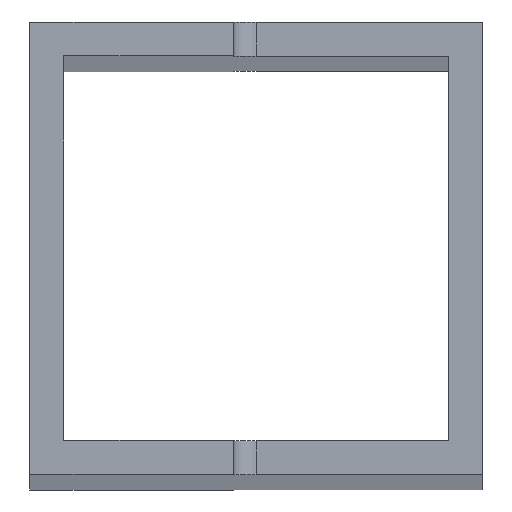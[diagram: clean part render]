
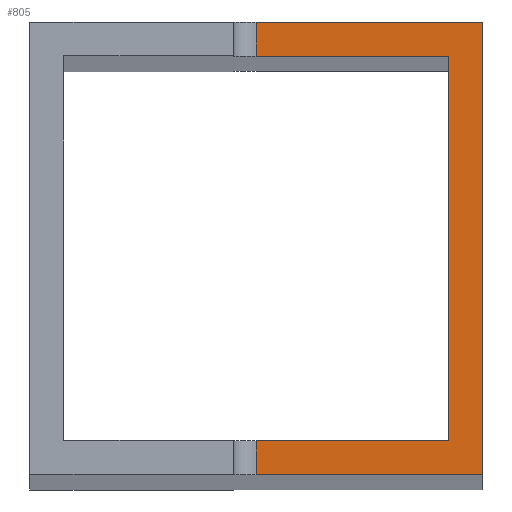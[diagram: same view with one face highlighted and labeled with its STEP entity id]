
A CAD part, top view. The second image highlights one B-rep face of the part: STEP entity #805.
In plain terms, the highlighted planar face has unit normal (0, 0, 1).
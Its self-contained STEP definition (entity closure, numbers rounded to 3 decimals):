
#32 = PLANE('',#33);
#33 = AXIS2_PLACEMENT_3D('',#34,#35,#36);
#34 = CARTESIAN_POINT('',(-20.,-20.,0.));
#35 = DIRECTION('',(0.,1.,0.));
#36 = DIRECTION('',(1.,0.,0.));
#141 = VERTEX_POINT('',#142);
#142 = CARTESIAN_POINT('',(0.,-20.,778.));
#157 = CYLINDRICAL_SURFACE('',#158,2.);
#158 = AXIS2_PLACEMENT_3D('',#159,#160,#161);
#159 = CARTESIAN_POINT('',(0.,20.,780.));
#160 = DIRECTION('',(0.,-1.,0.));
#161 = DIRECTION('',(1.,0.,0.));
#169 = EDGE_CURVE('',#170,#141,#172,.T.);
#170 = VERTEX_POINT('',#171);
#171 = CARTESIAN_POINT('',(20.,-20.,778.));
#172 = SURFACE_CURVE('',#173,(#177,#184),.PCURVE_S1.);
#173 = LINE('',#174,#175);
#174 = CARTESIAN_POINT('',(1700.,-20.,778.));
#175 = VECTOR('',#176,1.);
#176 = DIRECTION('',(-1.,0.,0.));
#177 = PCURVE('',#32,#178);
#178 = DEFINITIONAL_REPRESENTATION('',(#179),#183);
#179 = LINE('',#180,#181);
#180 = CARTESIAN_POINT('',(1720.,-778.));
#181 = VECTOR('',#182,1.);
#182 = DIRECTION('',(-1.,0.));
#183 = ( GEOMETRIC_REPRESENTATION_CONTEXT(2) 
PARAMETRIC_REPRESENTATION_CONTEXT() REPRESENTATION_CONTEXT('2D SPACE',''
  ) );
#184 = PCURVE('',#185,#190);
#185 = PLANE('',#186);
#186 = AXIS2_PLACEMENT_3D('',#187,#188,#189);
#187 = CARTESIAN_POINT('',(1700.,20.,778.));
#188 = DIRECTION('',(0.,0.,1.));
#189 = DIRECTION('',(0.,-1.,0.));
#190 = DEFINITIONAL_REPRESENTATION('',(#191),#195);
#191 = LINE('',#192,#193);
#192 = CARTESIAN_POINT('',(40.,0.));
#193 = VECTOR('',#194,1.);
#194 = DIRECTION('',(0.,-1.));
#195 = ( GEOMETRIC_REPRESENTATION_CONTEXT(2) 
PARAMETRIC_REPRESENTATION_CONTEXT() REPRESENTATION_CONTEXT('2D SPACE',''
  ) );
#213 = PLANE('',#214);
#214 = AXIS2_PLACEMENT_3D('',#215,#216,#217);
#215 = CARTESIAN_POINT('',(20.,-20.,0.));
#216 = DIRECTION('',(-1.,0.,0.));
#217 = DIRECTION('',(0.,1.,0.));
#376 = PLANE('',#377);
#377 = AXIS2_PLACEMENT_3D('',#378,#379,#380);
#378 = CARTESIAN_POINT('',(-17.,-17.,0.));
#379 = DIRECTION('',(0.,1.,0.));
#380 = DIRECTION('',(1.,0.,0.));
#432 = PLANE('',#433);
#433 = AXIS2_PLACEMENT_3D('',#434,#435,#436);
#434 = CARTESIAN_POINT('',(17.,17.,0.));
#435 = DIRECTION('',(0.,-1.,0.));
#436 = DIRECTION('',(-1.,0.,0.));
#484 = PLANE('',#485);
#485 = AXIS2_PLACEMENT_3D('',#486,#487,#488);
#486 = CARTESIAN_POINT('',(20.,20.,0.));
#487 = DIRECTION('',(0.,-1.,0.));
#488 = DIRECTION('',(-1.,0.,0.));
#678 = PLANE('',#679);
#679 = AXIS2_PLACEMENT_3D('',#680,#681,#682);
#680 = CARTESIAN_POINT('',(17.,-17.,0.));
#681 = DIRECTION('',(-1.,0.,0.));
#682 = DIRECTION('',(0.,1.,0.));
#763 = VERTEX_POINT('',#764);
#764 = CARTESIAN_POINT('',(20.,20.,778.));
#787 = EDGE_CURVE('',#170,#763,#788,.T.);
#788 = SURFACE_CURVE('',#789,(#793,#799),.PCURVE_S1.);
#789 = LINE('',#790,#791);
#790 = CARTESIAN_POINT('',(20.,0.,778.));
#791 = VECTOR('',#792,1.);
#792 = DIRECTION('',(0.,1.,-0.));
#793 = PCURVE('',#213,#794);
#794 = DEFINITIONAL_REPRESENTATION('',(#795),#798);
#795 = B_SPLINE_CURVE_WITH_KNOTS('',1,(#796,#797),.UNSPECIFIED.,.F.,.F.,
  (2,2),(-20.,20.),.PIECEWISE_BEZIER_KNOTS.);
#796 = CARTESIAN_POINT('',(0.,-778.));
#797 = CARTESIAN_POINT('',(40.,-778.));
#798 = ( GEOMETRIC_REPRESENTATION_CONTEXT(2) 
PARAMETRIC_REPRESENTATION_CONTEXT() REPRESENTATION_CONTEXT('2D SPACE',''
  ) );
#799 = PCURVE('',#185,#800);
#800 = DEFINITIONAL_REPRESENTATION('',(#801),#804);
#801 = B_SPLINE_CURVE_WITH_KNOTS('',1,(#802,#803),.UNSPECIFIED.,.F.,.F.,
  (2,2),(-20.,20.),.PIECEWISE_BEZIER_KNOTS.);
#802 = CARTESIAN_POINT('',(40.,-1680.));
#803 = CARTESIAN_POINT('',(0.,-1680.));
#804 = ( GEOMETRIC_REPRESENTATION_CONTEXT(2) 
PARAMETRIC_REPRESENTATION_CONTEXT() REPRESENTATION_CONTEXT('2D SPACE',''
  ) );
#805 = ADVANCED_FACE('',(#806),#185,.T.);
#806 = FACE_BOUND('',#807,.T.);
#807 = EDGE_LOOP('',(#808,#809,#832,#860,#881,#902,#923,#944));
#808 = ORIENTED_EDGE('',*,*,#787,.T.);
#809 = ORIENTED_EDGE('',*,*,#810,.T.);
#810 = EDGE_CURVE('',#763,#811,#813,.T.);
#811 = VERTEX_POINT('',#812);
#812 = CARTESIAN_POINT('',(0.,20.,778.));
#813 = SURFACE_CURVE('',#814,(#818,#825),.PCURVE_S1.);
#814 = LINE('',#815,#816);
#815 = CARTESIAN_POINT('',(1700.,20.,778.));
#816 = VECTOR('',#817,1.);
#817 = DIRECTION('',(-1.,0.,0.));
#818 = PCURVE('',#185,#819);
#819 = DEFINITIONAL_REPRESENTATION('',(#820),#824);
#820 = LINE('',#821,#822);
#821 = CARTESIAN_POINT('',(0.,0.));
#822 = VECTOR('',#823,1.);
#823 = DIRECTION('',(0.,-1.));
#824 = ( GEOMETRIC_REPRESENTATION_CONTEXT(2) 
PARAMETRIC_REPRESENTATION_CONTEXT() REPRESENTATION_CONTEXT('2D SPACE',''
  ) );
#825 = PCURVE('',#484,#826);
#826 = DEFINITIONAL_REPRESENTATION('',(#827),#831);
#827 = LINE('',#828,#829);
#828 = CARTESIAN_POINT('',(-1680.,-778.));
#829 = VECTOR('',#830,1.);
#830 = DIRECTION('',(1.,0.));
#831 = ( GEOMETRIC_REPRESENTATION_CONTEXT(2) 
PARAMETRIC_REPRESENTATION_CONTEXT() REPRESENTATION_CONTEXT('2D SPACE',''
  ) );
#832 = ORIENTED_EDGE('',*,*,#833,.T.);
#833 = EDGE_CURVE('',#811,#834,#836,.T.);
#834 = VERTEX_POINT('',#835);
#835 = CARTESIAN_POINT('',(0.,17.,778.));
#836 = SURFACE_CURVE('',#837,(#841,#848),.PCURVE_S1.);
#837 = LINE('',#838,#839);
#838 = CARTESIAN_POINT('',(0.,20.,778.));
#839 = VECTOR('',#840,1.);
#840 = DIRECTION('',(0.,-1.,0.));
#841 = PCURVE('',#185,#842);
#842 = DEFINITIONAL_REPRESENTATION('',(#843),#847);
#843 = LINE('',#844,#845);
#844 = CARTESIAN_POINT('',(0.,-1700.));
#845 = VECTOR('',#846,1.);
#846 = DIRECTION('',(1.,0.));
#847 = ( GEOMETRIC_REPRESENTATION_CONTEXT(2) 
PARAMETRIC_REPRESENTATION_CONTEXT() REPRESENTATION_CONTEXT('2D SPACE',''
  ) );
#848 = PCURVE('',#849,#854);
#849 = CYLINDRICAL_SURFACE('',#850,2.);
#850 = AXIS2_PLACEMENT_3D('',#851,#852,#853);
#851 = CARTESIAN_POINT('',(0.,20.,780.));
#852 = DIRECTION('',(0.,-1.,0.));
#853 = DIRECTION('',(1.,0.,0.));
#854 = DEFINITIONAL_REPRESENTATION('',(#855),#859);
#855 = LINE('',#856,#857);
#856 = CARTESIAN_POINT('',(-1.571,0.));
#857 = VECTOR('',#858,1.);
#858 = DIRECTION('',(-0.,1.));
#859 = ( GEOMETRIC_REPRESENTATION_CONTEXT(2) 
PARAMETRIC_REPRESENTATION_CONTEXT() REPRESENTATION_CONTEXT('2D SPACE',''
  ) );
#860 = ORIENTED_EDGE('',*,*,#861,.F.);
#861 = EDGE_CURVE('',#862,#834,#864,.T.);
#862 = VERTEX_POINT('',#863);
#863 = CARTESIAN_POINT('',(17.,17.,778.));
#864 = SURFACE_CURVE('',#865,(#869,#875),.PCURVE_S1.);
#865 = LINE('',#866,#867);
#866 = CARTESIAN_POINT('',(858.5,17.,778.));
#867 = VECTOR('',#868,1.);
#868 = DIRECTION('',(-1.,0.,0.));
#869 = PCURVE('',#185,#870);
#870 = DEFINITIONAL_REPRESENTATION('',(#871),#874);
#871 = B_SPLINE_CURVE_WITH_KNOTS('',1,(#872,#873),.UNSPECIFIED.,.F.,.F.,
  (2,2),(841.5,858.5),.PIECEWISE_BEZIER_KNOTS.);
#872 = CARTESIAN_POINT('',(3.,-1683.));
#873 = CARTESIAN_POINT('',(3.,-1700.));
#874 = ( GEOMETRIC_REPRESENTATION_CONTEXT(2) 
PARAMETRIC_REPRESENTATION_CONTEXT() REPRESENTATION_CONTEXT('2D SPACE',''
  ) );
#875 = PCURVE('',#432,#876);
#876 = DEFINITIONAL_REPRESENTATION('',(#877),#880);
#877 = B_SPLINE_CURVE_WITH_KNOTS('',1,(#878,#879),.UNSPECIFIED.,.F.,.F.,
  (2,2),(841.5,858.5),.PIECEWISE_BEZIER_KNOTS.);
#878 = CARTESIAN_POINT('',(0.,-778.));
#879 = CARTESIAN_POINT('',(17.,-778.));
#880 = ( GEOMETRIC_REPRESENTATION_CONTEXT(2) 
PARAMETRIC_REPRESENTATION_CONTEXT() REPRESENTATION_CONTEXT('2D SPACE',''
  ) );
#881 = ORIENTED_EDGE('',*,*,#882,.F.);
#882 = EDGE_CURVE('',#883,#862,#885,.T.);
#883 = VERTEX_POINT('',#884);
#884 = CARTESIAN_POINT('',(17.,-17.,778.));
#885 = SURFACE_CURVE('',#886,(#890,#896),.PCURVE_S1.);
#886 = LINE('',#887,#888);
#887 = CARTESIAN_POINT('',(17.,1.5,778.));
#888 = VECTOR('',#889,1.);
#889 = DIRECTION('',(0.,1.,-0.));
#890 = PCURVE('',#185,#891);
#891 = DEFINITIONAL_REPRESENTATION('',(#892),#895);
#892 = B_SPLINE_CURVE_WITH_KNOTS('',1,(#893,#894),.UNSPECIFIED.,.F.,.F.,
  (2,2),(-18.5,15.5),.PIECEWISE_BEZIER_KNOTS.);
#893 = CARTESIAN_POINT('',(37.,-1683.));
#894 = CARTESIAN_POINT('',(3.,-1683.));
#895 = ( GEOMETRIC_REPRESENTATION_CONTEXT(2) 
PARAMETRIC_REPRESENTATION_CONTEXT() REPRESENTATION_CONTEXT('2D SPACE',''
  ) );
#896 = PCURVE('',#678,#897);
#897 = DEFINITIONAL_REPRESENTATION('',(#898),#901);
#898 = B_SPLINE_CURVE_WITH_KNOTS('',1,(#899,#900),.UNSPECIFIED.,.F.,.F.,
  (2,2),(-18.5,15.5),.PIECEWISE_BEZIER_KNOTS.);
#899 = CARTESIAN_POINT('',(0.,-778.));
#900 = CARTESIAN_POINT('',(34.,-778.));
#901 = ( GEOMETRIC_REPRESENTATION_CONTEXT(2) 
PARAMETRIC_REPRESENTATION_CONTEXT() REPRESENTATION_CONTEXT('2D SPACE',''
  ) );
#902 = ORIENTED_EDGE('',*,*,#903,.F.);
#903 = EDGE_CURVE('',#904,#883,#906,.T.);
#904 = VERTEX_POINT('',#905);
#905 = CARTESIAN_POINT('',(0.,-17.,778.));
#906 = SURFACE_CURVE('',#907,(#911,#917),.PCURVE_S1.);
#907 = LINE('',#908,#909);
#908 = CARTESIAN_POINT('',(841.5,-17.,778.));
#909 = VECTOR('',#910,1.);
#910 = DIRECTION('',(1.,0.,0.));
#911 = PCURVE('',#185,#912);
#912 = DEFINITIONAL_REPRESENTATION('',(#913),#916);
#913 = B_SPLINE_CURVE_WITH_KNOTS('',1,(#914,#915),.UNSPECIFIED.,.F.,.F.,
  (2,2),(-841.5,-824.5),.PIECEWISE_BEZIER_KNOTS.);
#914 = CARTESIAN_POINT('',(37.,-1700.));
#915 = CARTESIAN_POINT('',(37.,-1683.));
#916 = ( GEOMETRIC_REPRESENTATION_CONTEXT(2) 
PARAMETRIC_REPRESENTATION_CONTEXT() REPRESENTATION_CONTEXT('2D SPACE',''
  ) );
#917 = PCURVE('',#376,#918);
#918 = DEFINITIONAL_REPRESENTATION('',(#919),#922);
#919 = B_SPLINE_CURVE_WITH_KNOTS('',1,(#920,#921),.UNSPECIFIED.,.F.,.F.,
  (2,2),(-841.5,-824.5),.PIECEWISE_BEZIER_KNOTS.);
#920 = CARTESIAN_POINT('',(17.,-778.));
#921 = CARTESIAN_POINT('',(34.,-778.));
#922 = ( GEOMETRIC_REPRESENTATION_CONTEXT(2) 
PARAMETRIC_REPRESENTATION_CONTEXT() REPRESENTATION_CONTEXT('2D SPACE',''
  ) );
#923 = ORIENTED_EDGE('',*,*,#924,.T.);
#924 = EDGE_CURVE('',#904,#141,#925,.T.);
#925 = SURFACE_CURVE('',#926,(#930,#937),.PCURVE_S1.);
#926 = LINE('',#927,#928);
#927 = CARTESIAN_POINT('',(0.,20.,778.));
#928 = VECTOR('',#929,1.);
#929 = DIRECTION('',(0.,-1.,0.));
#930 = PCURVE('',#185,#931);
#931 = DEFINITIONAL_REPRESENTATION('',(#932),#936);
#932 = LINE('',#933,#934);
#933 = CARTESIAN_POINT('',(0.,-1700.));
#934 = VECTOR('',#935,1.);
#935 = DIRECTION('',(1.,0.));
#936 = ( GEOMETRIC_REPRESENTATION_CONTEXT(2) 
PARAMETRIC_REPRESENTATION_CONTEXT() REPRESENTATION_CONTEXT('2D SPACE',''
  ) );
#937 = PCURVE('',#157,#938);
#938 = DEFINITIONAL_REPRESENTATION('',(#939),#943);
#939 = LINE('',#940,#941);
#940 = CARTESIAN_POINT('',(-1.571,0.));
#941 = VECTOR('',#942,1.);
#942 = DIRECTION('',(-0.,1.));
#943 = ( GEOMETRIC_REPRESENTATION_CONTEXT(2) 
PARAMETRIC_REPRESENTATION_CONTEXT() REPRESENTATION_CONTEXT('2D SPACE',''
  ) );
#944 = ORIENTED_EDGE('',*,*,#169,.F.);
